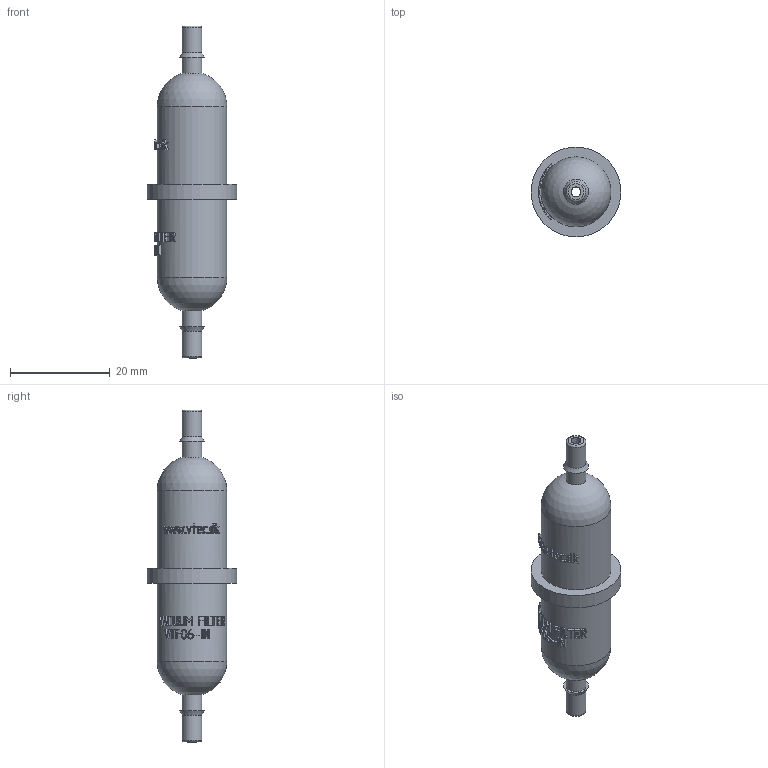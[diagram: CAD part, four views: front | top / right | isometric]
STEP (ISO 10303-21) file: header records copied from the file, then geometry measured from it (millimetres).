
FILE_DESCRIPTION( ( 'STEP AP214' ), '1' );
FILE_NAME( 'C:/撲啗紫賊-02/3D-Step File/Accessories/Vacuum Filter/VTF06-IN.stp', '2006-04-24T05:51:03', ( ' ' ), ( ' ' ), 'XStep 1.0', ' ', ' ' );
FILE_SCHEMA( ( 'CONFIG_CONTROL_DESIGN) ( )' ) );
Length unit declared in the file: metre
Products named in the file (1): 1
Bounding box: 18 x 18 x 66.5 mm (x, y, z)
Volume: 7027.4 mm3; surface area: 3133.1 mm2
Topology: 1 solids, 1 shells, 300 faces, 764 edges, 507 vertices
Faces by surface type: plane 158, bspline 91, cylinder 45, torus 2, sphere 2, cone 2
Full cylindrical faces by diameter (mm): 2 x1, 4 x4, 14 x2, 18 x1
Entity records: 16502 total; most frequent: CARTESIAN_POINT 7364, ORIENTED_EDGE 1494, DIRECTION 1153, EDGE_CURVE 747, VERTEX_POINT 506, AXIS2_PLACEMENT_3D 400, EDGE_LOOP 359, LINE 353
